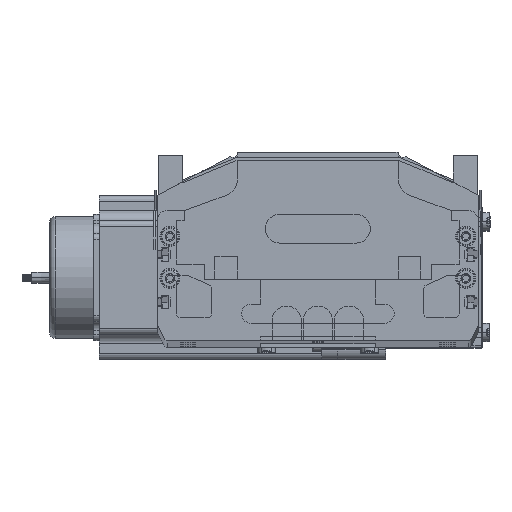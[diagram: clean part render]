
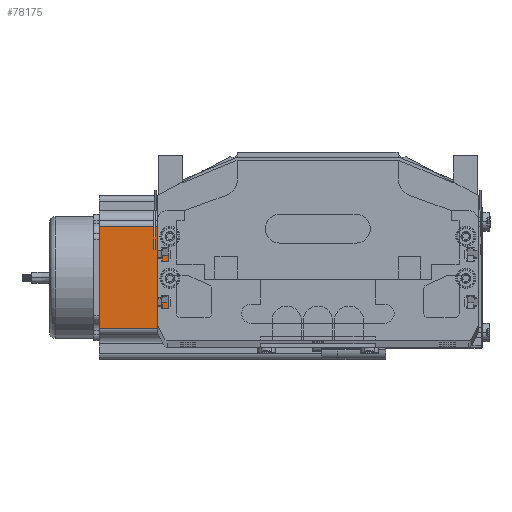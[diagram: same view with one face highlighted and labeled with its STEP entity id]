
A CAD part, top view. The second image highlights one B-rep face of the part: STEP entity #78175.
In plain terms, the highlighted planar face has unit normal (0, 0, 1) as drawn and (0, -1, 0) by its records, which use the part's own axes.
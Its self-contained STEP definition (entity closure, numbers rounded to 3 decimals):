
#31992 = CARTESIAN_POINT ( 'NONE',  ( 16.16, 0., 116.5 ) ) ;
#32065 = DIRECTION ( 'NONE',  ( 0., 0., 1. ) ) ;
#32066 = VECTOR ( 'NONE', #32065, 1000. ) ;
#32068 = CARTESIAN_POINT ( 'NONE',  ( 69.74, 0., 116.5 ) ) ;
#32069 = LINE ( 'NONE', #32068, #32066 ) ;
#32076 = DIRECTION ( 'NONE',  ( 1., 0., 0. ) ) ;
#32077 = VECTOR ( 'NONE', #32076, 1000. ) ;
#32078 = CARTESIAN_POINT ( 'NONE',  ( 0., 0., 116.5 ) ) ;
#32080 = LINE ( 'NONE', #32078, #32077 ) ;
#32105 = DIRECTION ( 'NONE',  ( 0., 0., -1. ) ) ;
#32110 = VECTOR ( 'NONE', #32105, 1000. ) ;
#32121 = CARTESIAN_POINT ( 'NONE',  ( 16.16, 0., 116.5 ) ) ;
#32122 = LINE ( 'NONE', #32121, #32110 ) ;
#32244 = CARTESIAN_POINT ( 'NONE',  ( 69.74, 0., 0. ) ) ;
#37770 = PLANE ( 'NONE',  #37844 ) ;
#37838 = DIRECTION ( 'NONE',  ( 0., 0., 1. ) ) ;
#37839 = DIRECTION ( 'NONE',  ( 0., 1., 0. ) ) ;
#37840 = CARTESIAN_POINT ( 'NONE',  ( 0., 0., 116.5 ) ) ;
#37844 = AXIS2_PLACEMENT_3D ( 'NONE', #37840, #37839, #37838 ) ;
#37850 = FACE_OUTER_BOUND ( 'NONE', #78203, .T. ) ;
#37966 = LINE ( 'NONE', #38027, #38026 ) ;
#38019 = CARTESIAN_POINT ( 'NONE',  ( 69.74, 0., 116.5 ) ) ;
#38020 = CARTESIAN_POINT ( 'NONE',  ( 16.16, 0., 0. ) ) ;
#38025 = DIRECTION ( 'NONE',  ( 1., 0., 0. ) ) ;
#38026 = VECTOR ( 'NONE', #38025, 1000. ) ;
#38027 = CARTESIAN_POINT ( 'NONE',  ( 0., 0., 0. ) ) ;
#78175 = ADVANCED_FACE ( 'NONE', ( #37850 ), #37770, .F. ) ;
#78179 = ORIENTED_EDGE ( 'NONE', *, *, #78249, .T. ) ;
#78203 = EDGE_LOOP ( 'NONE', ( #78179, #78715, #78618, #78330 ) ) ;
#78249 = EDGE_CURVE ( 'NONE', #78257, #78743, #37966, .T. ) ;
#78257 = VERTEX_POINT ( 'NONE', #38020 ) ;
#78259 = VERTEX_POINT ( 'NONE', #38019 ) ;
#78330 = ORIENTED_EDGE ( 'NONE', *, *, #78619, .T. ) ;
#78571 = VERTEX_POINT ( 'NONE', #31992 ) ;
#78595 = EDGE_CURVE ( 'NONE', #78571, #78259, #32080, .T. ) ;
#78603 = EDGE_CURVE ( 'NONE', #78743, #78259, #32069, .T. ) ;
#78618 = ORIENTED_EDGE ( 'NONE', *, *, #78595, .F. ) ;
#78619 = EDGE_CURVE ( 'NONE', #78571, #78257, #32122, .T. ) ;
#78715 = ORIENTED_EDGE ( 'NONE', *, *, #78603, .T. ) ;
#78743 = VERTEX_POINT ( 'NONE', #32244 ) ;
